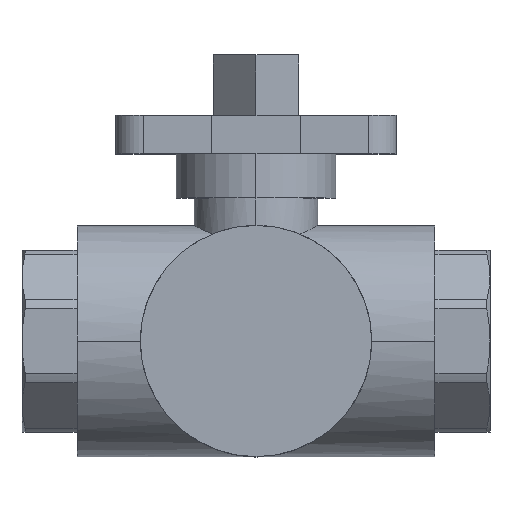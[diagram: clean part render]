
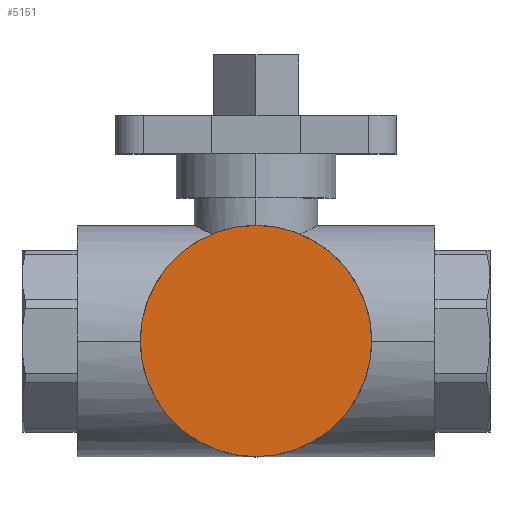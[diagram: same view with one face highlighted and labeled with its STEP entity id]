
A CAD part, top view. The second image highlights one B-rep face of the part: STEP entity #5151.
In plain terms, the highlighted planar face has unit normal (0, 0, 1).
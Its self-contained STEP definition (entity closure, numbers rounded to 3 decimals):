
#111 = PLANE ( 'NONE',  #2661 ) ;
#139 = DIRECTION ( 'NONE',  ( 0., 0., 1. ) ) ;
#279 = EDGE_CURVE ( 'NONE', #3964, #2116, #2982, .T. ) ;
#399 = AXIS2_PLACEMENT_3D ( 'NONE', #3481, #994, #3905 ) ;
#677 = CIRCLE ( 'NONE', #399, 21. ) ;
#952 = ORIENTED_EDGE ( 'NONE', *, *, #279, .T. ) ;
#958 = DIRECTION ( 'NONE',  ( -1., 0., 0. ) ) ;
#994 = DIRECTION ( 'NONE',  ( 0., 0., 1. ) ) ;
#1220 = FACE_OUTER_BOUND ( 'NONE', #2737, .T. ) ;
#1331 = AXIS2_PLACEMENT_3D ( 'NONE', #2632, #139, #3062 ) ;
#2116 = VERTEX_POINT ( 'NONE', #4302 ) ;
#2632 = CARTESIAN_POINT ( 'NONE',  ( 0., 0., 21. ) ) ;
#2661 = AXIS2_PLACEMENT_3D ( 'NONE', #3031, #3447, #958 ) ;
#2737 = EDGE_LOOP ( 'NONE', ( #952, #3811 ) ) ;
#2791 = EDGE_CURVE ( 'NONE', #2116, #3964, #677, .T. ) ;
#2938 = CARTESIAN_POINT ( 'NONE',  ( -21., 0., 21. ) ) ;
#2982 = CIRCLE ( 'NONE', #1331, 21. ) ;
#3031 = CARTESIAN_POINT ( 'NONE',  ( 0., 21., 21. ) ) ;
#3062 = DIRECTION ( 'NONE',  ( 1., 0., 0. ) ) ;
#3447 = DIRECTION ( 'NONE',  ( 0., 0., -1. ) ) ;
#3481 = CARTESIAN_POINT ( 'NONE',  ( 0., 0., 21. ) ) ;
#3811 = ORIENTED_EDGE ( 'NONE', *, *, #2791, .T. ) ;
#3905 = DIRECTION ( 'NONE',  ( 1., 0., 0. ) ) ;
#3964 = VERTEX_POINT ( 'NONE', #2938 ) ;
#4302 = CARTESIAN_POINT ( 'NONE',  ( 21., 0., 21. ) ) ;
#5151 = ADVANCED_FACE ( 'NONE', ( #1220 ), #111, .F. ) ;
